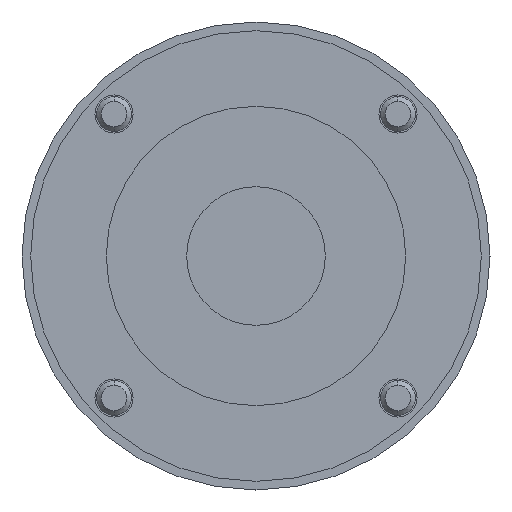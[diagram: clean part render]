
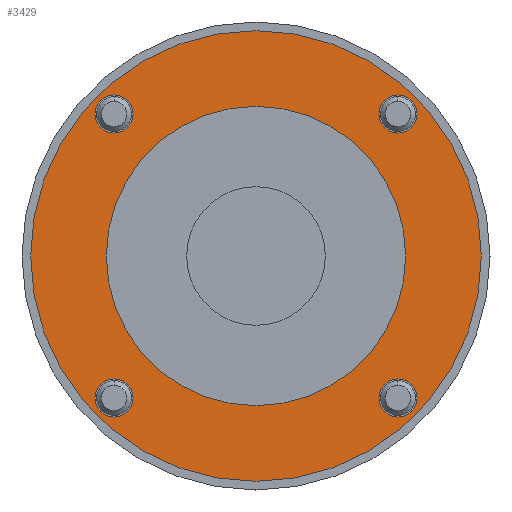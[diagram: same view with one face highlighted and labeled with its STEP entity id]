
A CAD part, left-side view. The second image highlights one B-rep face of the part: STEP entity #3429.
In plain terms, the highlighted planar face has unit normal (-1, 0, 0).
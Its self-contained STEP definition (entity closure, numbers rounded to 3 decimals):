
#272 = CARTESIAN_POINT ( 'NONE',  ( 3.5, -24.572, 27.872 ) ) ;
#303 = DIRECTION ( 'NONE',  ( 0., 0., -1. ) ) ;
#304 = DIRECTION ( 'NONE',  ( 1., 0., 0. ) ) ;
#305 = CARTESIAN_POINT ( 'NONE',  ( 3.5, -24.572, 24.572 ) ) ;
#306 = AXIS2_PLACEMENT_3D ( 'NONE', #305, #304, #303 ) ;
#307 = CIRCLE ( 'NONE', #306, 3.3 ) ;
#385 = CARTESIAN_POINT ( 'NONE',  ( 3.5, 24.572, -24.572 ) ) ;
#393 = AXIS2_PLACEMENT_3D ( 'NONE', #385, #433, #432 ) ;
#398 = CARTESIAN_POINT ( 'NONE',  ( 3.5, 24.572, -27.872 ) ) ;
#399 = CARTESIAN_POINT ( 'NONE',  ( 3.5, 24.572, -21.272 ) ) ;
#401 = CIRCLE ( 'NONE', #393, 3.3 ) ;
#432 = DIRECTION ( 'NONE',  ( 0., 0., -1. ) ) ;
#433 = DIRECTION ( 'NONE',  ( 1., 0., 0. ) ) ;
#524 = CARTESIAN_POINT ( 'NONE',  ( 3.5, 24.572, 27.872 ) ) ;
#574 = CIRCLE ( 'NONE', #600, 3.3 ) ;
#590 = DIRECTION ( 'NONE',  ( 0., 0., -1. ) ) ;
#591 = DIRECTION ( 'NONE',  ( 1., 0., 0. ) ) ;
#592 = CARTESIAN_POINT ( 'NONE',  ( 3.5, -24.572, -24.572 ) ) ;
#599 = CARTESIAN_POINT ( 'NONE',  ( 3.5, -24.572, -27.872 ) ) ;
#600 = AXIS2_PLACEMENT_3D ( 'NONE', #592, #591, #590 ) ;
#628 = CARTESIAN_POINT ( 'NONE',  ( 3.5, -24.572, 21.272 ) ) ;
#633 = CARTESIAN_POINT ( 'NONE',  ( 3.5, -24.572, -21.272 ) ) ;
#1089 = CARTESIAN_POINT ( 'NONE',  ( 3.5, 0., 25.9 ) ) ;
#1276 = CARTESIAN_POINT ( 'NONE',  ( 3.5, 24.572, 24.572 ) ) ;
#1277 = CIRCLE ( 'NONE', #1304, 3.3 ) ;
#1304 = AXIS2_PLACEMENT_3D ( 'NONE', #1276, #1329, #1328 ) ;
#1311 = DIRECTION ( 'NONE',  ( 0., 0., 1. ) ) ;
#1312 = DIRECTION ( 'NONE',  ( -1., 0., 0. ) ) ;
#1313 = CARTESIAN_POINT ( 'NONE',  ( 3.5, 0., 0. ) ) ;
#1316 = CIRCLE ( 'NONE', #1322, 39. ) ;
#1317 = CARTESIAN_POINT ( 'NONE',  ( 3.5, 0., -39. ) ) ;
#1322 = AXIS2_PLACEMENT_3D ( 'NONE', #1313, #1312, #1311 ) ;
#1328 = DIRECTION ( 'NONE',  ( 0., 0., -1. ) ) ;
#1329 = DIRECTION ( 'NONE',  ( 1., 0., 0. ) ) ;
#1469 = CARTESIAN_POINT ( 'NONE',  ( 3.5, 0., -25.9 ) ) ;
#1497 = DIRECTION ( 'NONE',  ( 0., 0., 1. ) ) ;
#1498 = AXIS2_PLACEMENT_3D ( 'NONE', #1505, #1508, #1497 ) ;
#1499 = CIRCLE ( 'NONE', #1498, 25.9 ) ;
#1505 = CARTESIAN_POINT ( 'NONE',  ( 3.5, 0., 0. ) ) ;
#1508 = DIRECTION ( 'NONE',  ( -1., 0., 0. ) ) ;
#1791 = CARTESIAN_POINT ( 'NONE',  ( 3.5, 24.572, 21.272 ) ) ;
#2083 = CARTESIAN_POINT ( 'NONE',  ( 3.5, 0., 39. ) ) ;
#2179 = AXIS2_PLACEMENT_3D ( 'NONE', #2188, #2182, #2246 ) ;
#2182 = DIRECTION ( 'NONE',  ( -1., 0., 0. ) ) ;
#2188 = CARTESIAN_POINT ( 'NONE',  ( 3.5, 0., 0. ) ) ;
#2190 = CIRCLE ( 'NONE', #2179, 39. ) ;
#2193 = DIRECTION ( 'NONE',  ( 0., 0., -1. ) ) ;
#2194 = DIRECTION ( 'NONE',  ( 1., 0., 0. ) ) ;
#2195 = CARTESIAN_POINT ( 'NONE',  ( 3.5, 24.572, -24.572 ) ) ;
#2196 = AXIS2_PLACEMENT_3D ( 'NONE', #2195, #2194, #2193 ) ;
#2197 = CIRCLE ( 'NONE', #2196, 3.3 ) ;
#2246 = DIRECTION ( 'NONE',  ( 0., 0., 1. ) ) ;
#3414 = ORIENTED_EDGE ( 'NONE', *, *, #3416, .T. ) ;
#3415 = EDGE_CURVE ( 'NONE', #4971, #4841, #4324, .T. ) ;
#3416 = EDGE_CURVE ( 'NONE', #5383, #4910, #4308, .T. ) ;
#3417 = EDGE_LOOP ( 'NONE', ( #3427, #3424 ) ) ;
#3419 = EDGE_LOOP ( 'NONE', ( #3414, #3420 ) ) ;
#3420 = ORIENTED_EDGE ( 'NONE', *, *, #5195, .T. ) ;
#3421 = ORIENTED_EDGE ( 'NONE', *, *, #5572, .T. ) ;
#3422 = EDGE_LOOP ( 'NONE', ( #3421, #3425 ) ) ;
#3423 = EDGE_CURVE ( 'NONE', #5113, #5269, #4314, .T. ) ;
#3424 = ORIENTED_EDGE ( 'NONE', *, *, #5274, .F. ) ;
#3425 = ORIENTED_EDGE ( 'NONE', *, *, #5204, .T. ) ;
#3426 = EDGE_LOOP ( 'NONE', ( #5557, #5573 ) ) ;
#3427 = ORIENTED_EDGE ( 'NONE', *, *, #3423, .F. ) ;
#3429 = ADVANCED_FACE ( 'NONE', ( #4270, #4269, #4268, #4260, #4267, #4266 ), #4277, .F. ) ;
#3430 = EDGE_CURVE ( 'NONE', #4957, #4967, #4278, .T. ) ;
#4255 = DIRECTION ( 'NONE',  ( -1., 0., 0. ) ) ;
#4256 = DIRECTION ( 'NONE',  ( 0., 0., 1. ) ) ;
#4260 = FACE_BOUND ( 'NONE', #3419, .T. ) ;
#4266 = FACE_OUTER_BOUND ( 'NONE', #3422, .T. ) ;
#4267 = FACE_BOUND ( 'NONE', #3417, .T. ) ;
#4268 = FACE_BOUND ( 'NONE', #5570, .T. ) ;
#4269 = FACE_BOUND ( 'NONE', #5561, .T. ) ;
#4270 = FACE_BOUND ( 'NONE', #3426, .T. ) ;
#4277 = PLANE ( 'NONE',  #4288 ) ;
#4278 = CIRCLE ( 'NONE', #4283, 3.3 ) ;
#4280 = DIRECTION ( 'NONE',  ( 0., 0., -1. ) ) ;
#4281 = DIRECTION ( 'NONE',  ( 1., 0., 0. ) ) ;
#4282 = CARTESIAN_POINT ( 'NONE',  ( 3.5, -24.572, -24.572 ) ) ;
#4283 = AXIS2_PLACEMENT_3D ( 'NONE', #4282, #4281, #4280 ) ;
#4285 = DIRECTION ( 'NONE',  ( 0., 0., -1. ) ) ;
#4286 = DIRECTION ( 'NONE',  ( 1., 0., 0. ) ) ;
#4287 = CARTESIAN_POINT ( 'NONE',  ( 3.5, 39., 0. ) ) ;
#4288 = AXIS2_PLACEMENT_3D ( 'NONE', #4287, #4286, #4285 ) ;
#4308 = CIRCLE ( 'NONE', #4313, 3.3 ) ;
#4310 = DIRECTION ( 'NONE',  ( 0., 0., -1. ) ) ;
#4311 = DIRECTION ( 'NONE',  ( 1., 0., 0. ) ) ;
#4312 = CARTESIAN_POINT ( 'NONE',  ( 3.5, 24.572, 24.572 ) ) ;
#4313 = AXIS2_PLACEMENT_3D ( 'NONE', #4312, #4311, #4310 ) ;
#4314 = CIRCLE ( 'NONE', #4316, 25.9 ) ;
#4316 = AXIS2_PLACEMENT_3D ( 'NONE', #4321, #4255, #4256 ) ;
#4317 = DIRECTION ( 'NONE',  ( 0., 0., -1. ) ) ;
#4318 = DIRECTION ( 'NONE',  ( 1., 0., 0. ) ) ;
#4319 = CARTESIAN_POINT ( 'NONE',  ( 3.5, -24.572, 24.572 ) ) ;
#4320 = AXIS2_PLACEMENT_3D ( 'NONE', #4319, #4318, #4317 ) ;
#4321 = CARTESIAN_POINT ( 'NONE',  ( 3.5, 0., 0. ) ) ;
#4324 = CIRCLE ( 'NONE', #4320, 3.3 ) ;
#4841 = VERTEX_POINT ( 'NONE', #272 ) ;
#4846 = EDGE_CURVE ( 'NONE', #4841, #4971, #307, .T. ) ;
#4880 = VERTEX_POINT ( 'NONE', #399 ) ;
#4881 = VERTEX_POINT ( 'NONE', #398 ) ;
#4883 = EDGE_CURVE ( 'NONE', #4880, #4881, #401, .T. ) ;
#4910 = VERTEX_POINT ( 'NONE', #524 ) ;
#4955 = EDGE_CURVE ( 'NONE', #4967, #4957, #574, .T. ) ;
#4957 = VERTEX_POINT ( 'NONE', #599 ) ;
#4967 = VERTEX_POINT ( 'NONE', #633 ) ;
#4971 = VERTEX_POINT ( 'NONE', #628 ) ;
#5113 = VERTEX_POINT ( 'NONE', #1089 ) ;
#5195 = EDGE_CURVE ( 'NONE', #4910, #5383, #1277, .T. ) ;
#5204 = EDGE_CURVE ( 'NONE', #5205, #5507, #1316, .T. ) ;
#5205 = VERTEX_POINT ( 'NONE', #1317 ) ;
#5269 = VERTEX_POINT ( 'NONE', #1469 ) ;
#5274 = EDGE_CURVE ( 'NONE', #5269, #5113, #1499, .T. ) ;
#5383 = VERTEX_POINT ( 'NONE', #1791 ) ;
#5507 = VERTEX_POINT ( 'NONE', #2083 ) ;
#5556 = ORIENTED_EDGE ( 'NONE', *, *, #4846, .T. ) ;
#5557 = ORIENTED_EDGE ( 'NONE', *, *, #5559, .T. ) ;
#5558 = ORIENTED_EDGE ( 'NONE', *, *, #3415, .T. ) ;
#5559 = EDGE_CURVE ( 'NONE', #4881, #4880, #2197, .T. ) ;
#5560 = ORIENTED_EDGE ( 'NONE', *, *, #4955, .T. ) ;
#5561 = EDGE_LOOP ( 'NONE', ( #5562, #5560 ) ) ;
#5562 = ORIENTED_EDGE ( 'NONE', *, *, #3430, .T. ) ;
#5570 = EDGE_LOOP ( 'NONE', ( #5558, #5556 ) ) ;
#5572 = EDGE_CURVE ( 'NONE', #5507, #5205, #2190, .T. ) ;
#5573 = ORIENTED_EDGE ( 'NONE', *, *, #4883, .T. ) ;
